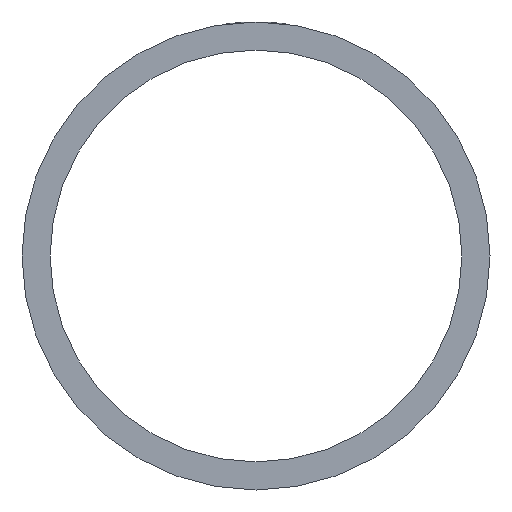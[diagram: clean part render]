
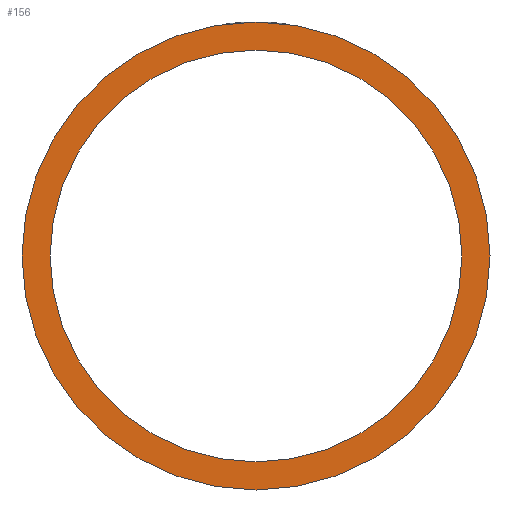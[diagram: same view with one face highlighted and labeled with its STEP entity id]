
A CAD part, front view. The second image highlights one B-rep face of the part: STEP entity #156.
In plain terms, the highlighted planar face has unit normal (0, -1, 0).
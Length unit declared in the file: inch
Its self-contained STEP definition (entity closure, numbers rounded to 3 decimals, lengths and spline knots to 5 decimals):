
#4 = ORIENTED_EDGE ( 'NONE', *, *, #419, .T. ) ;
#11 = ORIENTED_EDGE ( 'NONE', *, *, #438, .F. ) ;
#29 = ORIENTED_EDGE ( 'NONE', *, *, #443, .T. ) ;
#40 = ORIENTED_EDGE ( 'NONE', *, *, #441, .F. ) ;
#43 = VERTEX_POINT ( 'NONE', #174 ) ;
#46 = EDGE_LOOP ( 'NONE', ( #4, #29 ) ) ;
#58 = VERTEX_POINT ( 'NONE', #166 ) ;
#63 = CIRCLE ( 'NONE', #444, 0.88 ) ;
#76 = EDGE_LOOP ( 'NONE', ( #11, #40 ) ) ;
#89 = FACE_BOUND ( 'NONE', #46, .T. ) ;
#93 = FACE_OUTER_BOUND ( 'NONE', #76, .T. ) ;
#97 = VERTEX_POINT ( 'NONE', #169 ) ;
#98 = VERTEX_POINT ( 'NONE', #170 ) ;
#107 = CIRCLE ( 'NONE', #450, 1. ) ;
#111 = CIRCLE ( 'NONE', #455, 1. ) ;
#112 = CIRCLE ( 'NONE', #457, 0.88 ) ;
#156 = ADVANCED_FACE ( 'NONE', ( #93, #89 ), #191, .F. ) ;
#166 = CARTESIAN_POINT ( 'NONE',  ( 0., 0., 1. ) ) ;
#169 = CARTESIAN_POINT ( 'NONE',  ( 0., 0., 0.88 ) ) ;
#170 = CARTESIAN_POINT ( 'NONE',  ( 0., 0., -0.88 ) ) ;
#174 = CARTESIAN_POINT ( 'NONE',  ( 0., 0., -1. ) ) ;
#182 = DIRECTION ( 'NONE',  ( 0., 0., 1. ) ) ;
#189 = DIRECTION ( 'NONE',  ( 1., 0., 0. ) ) ;
#191 = PLANE ( 'NONE',  #446 ) ;
#201 = DIRECTION ( 'NONE',  ( 0., 1., 0. ) ) ;
#205 = CARTESIAN_POINT ( 'NONE',  ( 0., 0., 0. ) ) ;
#222 = CARTESIAN_POINT ( 'NONE',  ( 0., 0., 0. ) ) ;
#229 = DIRECTION ( 'NONE',  ( 0., 1., 0. ) ) ;
#313 = DIRECTION ( 'NONE',  ( 0., 1., 0. ) ) ;
#319 = CARTESIAN_POINT ( 'NONE',  ( 0., 0., 0. ) ) ;
#325 = DIRECTION ( 'NONE',  ( 0., 0., 1. ) ) ;
#345 = DIRECTION ( 'NONE',  ( 0., 0., 1. ) ) ;
#354 = DIRECTION ( 'NONE',  ( 0., 1., 0. ) ) ;
#378 = DIRECTION ( 'NONE',  ( 0., 1., 0. ) ) ;
#381 = CARTESIAN_POINT ( 'NONE',  ( 0., 0., 0. ) ) ;
#385 = DIRECTION ( 'NONE',  ( 1., 0., 0. ) ) ;
#388 = CARTESIAN_POINT ( 'NONE',  ( 0., 0., 0. ) ) ;
#419 = EDGE_CURVE ( 'NONE', #98, #97, #63, .T. ) ;
#438 = EDGE_CURVE ( 'NONE', #43, #58, #107, .T. ) ;
#441 = EDGE_CURVE ( 'NONE', #58, #43, #111, .T. ) ;
#443 = EDGE_CURVE ( 'NONE', #97, #98, #112, .T. ) ;
#444 = AXIS2_PLACEMENT_3D ( 'NONE', #205, #229, #189 ) ;
#446 = AXIS2_PLACEMENT_3D ( 'NONE', #222, #201, #182 ) ;
#450 = AXIS2_PLACEMENT_3D ( 'NONE', #319, #313, #325 ) ;
#455 = AXIS2_PLACEMENT_3D ( 'NONE', #388, #354, #345 ) ;
#457 = AXIS2_PLACEMENT_3D ( 'NONE', #381, #378, #385 ) ;
